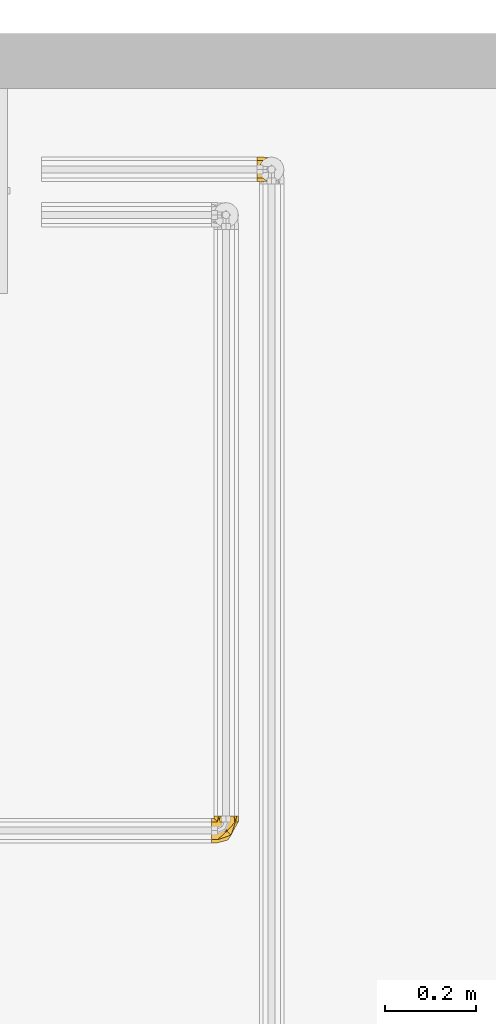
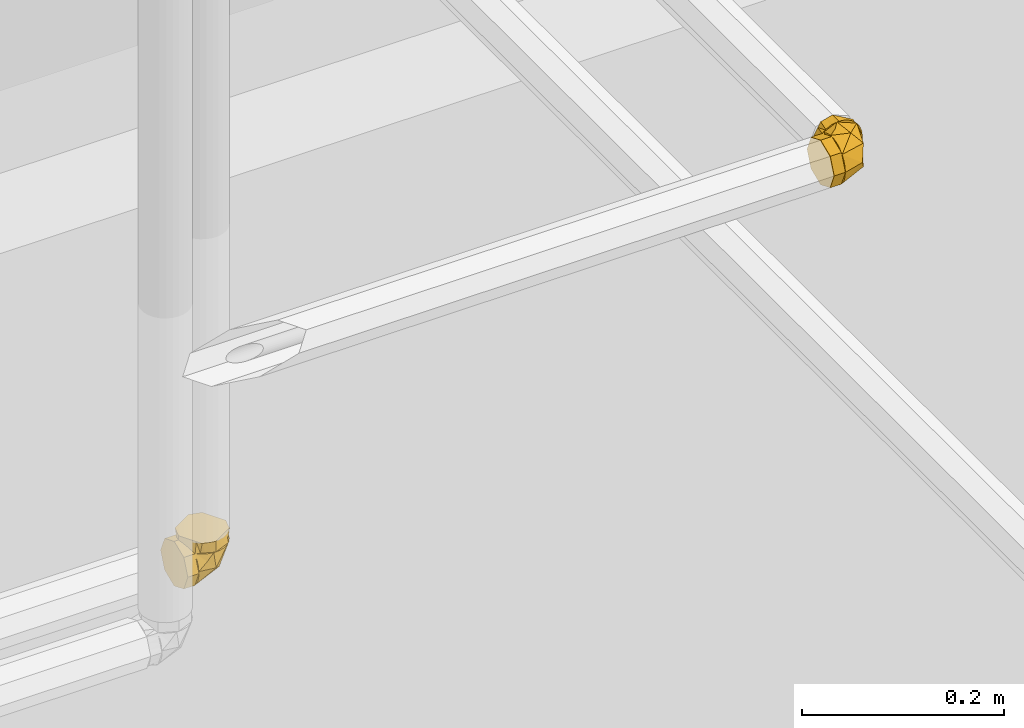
# One storey, part 314 of 652: 2 coverings.
"""IFC2X3 building model written with IfcOpenShell, lengths in millimetres."""

from ifc_helpers import new_model, entity, si_unit, converted_unit, direction, frame, origin, place, context, subcontext, project, spatial, face_set, surface_model, material, type_object, element, save


model = new_model("IFC2X3")

# Units and contexts
model_context = context("Model", 3, precision=0.01, world=frame((0.0, 0.0, 308426.39999999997)), true_north=direction((6.123233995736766e-17, 1.0)))
plan_context = context("Plan", 3, precision=0.01, world=frame((0.0, 0.0, 308426.39999999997)), true_north=direction((6.123233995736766e-17, 1.0)))
body_context = subcontext(model_context, "Body", "Model", "MODEL_VIEW")
ifc_project = project(units=[si_unit("LENGTHUNIT", "METRE", prefix="MILLI"), si_unit("AREAUNIT", "SQUARE_METRE"), si_unit("VOLUMEUNIT", "CUBIC_METRE"), converted_unit("PLANEANGLEUNIT", "DEGREE", entity("IfcPlaneAngleMeasure", 0.017453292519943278), si_unit("PLANEANGLEUNIT", "RADIAN"), dimensions=[0, 0, 0, 0, 0, 0, 0])], contexts=[model_context, plan_context])

# Site, building, storey
site_placement = place(None, origin())
site = spatial("IfcSite", under=ifc_project, at=site_placement, Name="Default", CompositionType="ELEMENT")
building_placement = place(site_placement, origin())
building = spatial("IfcBuilding", under=site, at=building_placement, CompositionType="ELEMENT")
storey_placement = place(building_placement, frame((0.0, 0.0, 1730.6999999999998)))
storey = spatial("IfcBuildingStorey", under=building, at=storey_placement, Name="EG_Produktion_FFB", CompositionType="ELEMENT", Elevation=1730.6999999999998)

# Coverings
ifc_material = material(Name="Dämmung - Armaflex-Schlauch")
covering_type = type_object("IfcCoveringType", Name="Rohrdämmung außen:Armaflex-Schlauch", PredefinedType="INSULATION")
covering_1_placement = place(storey_placement, frame((28968.016249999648, 48941.467227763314, 4071.467227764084)))
element("IfcCovering", 1, at=covering_1_placement, inside=storey, type_object=covering_type, material=ifc_material, Name="Rohrdämmung außen:Armaflex-Schlauch", ObjectType="Rohrdämmung außen:Armaflex-Schlauch", PredefinedType="INSULATION", context=body_context, shape_type="SurfaceModel", body=[
    surface_model("IfcFaceBasedSurfaceModel", [(12.766250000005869, 47.750272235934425, 9.656421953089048), (12.766250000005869, 42.79223424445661, 5.678961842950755), (12.766250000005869, 37.040242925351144, 2.973980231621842), (12.766250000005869, 30.81456370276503, 1.6920879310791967), (12.766250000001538, 24.461836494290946, 1.904659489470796), (12.766250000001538, 18.3357751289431, 3.599859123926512), (12.766250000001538, 12.777472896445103, 6.683299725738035), (12.766250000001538, 8.096410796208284, 10.98329824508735), (12.766250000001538, 4.553225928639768, 16.260434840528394), (12.766250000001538, 2.345199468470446, 22.220883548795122), (12.766250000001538, 1.5952722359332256, 28.532772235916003), (12.766250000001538, 2.345199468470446, 34.844660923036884), (12.766250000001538, 4.553225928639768, 40.805109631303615), (12.766250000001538, 8.096410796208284, 46.08224622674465), (12.766250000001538, 12.777472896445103, 50.38224474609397), (12.766250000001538, 18.3357751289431, 53.46568534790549), (12.766250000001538, 24.461836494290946, 55.16088498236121), (12.766250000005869, 30.81456370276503, 55.373456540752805), (12.766250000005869, 37.040242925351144, 54.09156424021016), (12.766250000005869, 42.79223424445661, 51.38658262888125), (12.766250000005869, 47.750272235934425, 47.40912251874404), (17.72428799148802, 47.750272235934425, 5.678961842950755), (23.476279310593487, 47.750272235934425, 2.973980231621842), (29.701958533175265, 47.750272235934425, 1.6920879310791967), (36.05468574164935, 47.750272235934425, 1.904659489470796), (42.180747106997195, 47.750272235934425, 3.599859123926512), (47.739049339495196, 47.750272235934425, 6.683299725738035), (52.420111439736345, 47.75027223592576, 10.98329824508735), (55.96329630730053, 47.75027223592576, 16.260434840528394), (58.17132276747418, 47.75027223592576, 22.220883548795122), (58.92125000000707, 47.75027223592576, 28.532772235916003), (58.17132276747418, 47.75027223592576, 34.844660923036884), (55.96329630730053, 47.75027223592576, 40.805109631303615), (52.420111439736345, 47.75027223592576, 46.08224622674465), (47.739049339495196, 47.750272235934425, 50.38224474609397), (42.180747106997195, 47.750272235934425, 53.46568534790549), (36.05468574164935, 47.750272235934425, 55.16088498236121), (29.701958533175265, 47.750272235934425, 55.373456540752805), (23.476279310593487, 47.750272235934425, 54.09156424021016), (17.72428799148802, 47.750272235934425, 51.38658262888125), (22.7095373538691, 39.06863649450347, 2.276149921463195), (35.8436193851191, 7.777523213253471, 28.53268678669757), (12.765958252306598, 19.45588014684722, 6.337529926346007), (33.5646887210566, 26.953096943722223, 3.5999063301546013), (43.18503173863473, 18.674532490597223, 14.285300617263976), (48.37773803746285, 29.487825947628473, 28.53268678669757), (41.0619055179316, 47.751827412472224, 6.337529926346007), (43.18503173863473, 18.674532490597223, 42.780072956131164), (33.5646887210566, 26.953096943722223, 53.46546724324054), (22.7095373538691, 39.06863649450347, 54.78922365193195), (41.0619055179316, 47.751827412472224, 50.727843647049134), (12.765958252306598, 19.45588014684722, 50.727843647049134), (0.0, 1.5952722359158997, 28.532772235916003), (0.0, 3.567725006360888, 33.29469446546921), (0.0, 5.540177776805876, 38.05661669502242), (0.0, 7.512630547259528, 42.818538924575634), (0.0, 9.485083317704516, 47.58046115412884), (0.0, 14.247005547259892, 49.552913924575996), (0.0, 19.008927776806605, 51.52536669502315), (0.0, 23.77085000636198, 53.49781946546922), (0.0, 28.532772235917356, 55.470272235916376), (0.0, 33.29469446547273, 53.49781946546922), (0.0, 38.056616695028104, 51.52536669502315), (0.0, 42.81853892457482, 49.552913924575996), (0.0, 47.5804611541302, 47.58046115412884), (0.0, 49.552913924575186, 42.818538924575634), (0.0, 51.525366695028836, 38.05661669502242), (0.0, 53.497819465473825, 33.29469446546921), (0.0, 55.47027223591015, 28.532772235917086), (0.0, 53.497819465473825, 23.770850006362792), (0.0, 51.525366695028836, 19.008927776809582), (0.0, 49.55291392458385, 14.247005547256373), (0.0, 47.5804611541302, 9.485083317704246), (0.0, 42.81853892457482, 7.512630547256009), (0.0, 38.056616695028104, 5.5401777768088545), (0.0, 33.29469446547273, 3.567725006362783), (0.0, 28.532772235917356, 1.595272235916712), (0.0, 23.77085000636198, 3.567725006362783), (0.0, 19.008927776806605, 5.5401777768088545), (0.0, 14.247005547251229, 7.512630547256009), (0.0, 9.485083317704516, 9.485083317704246), (0.0, 7.512630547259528, 14.247005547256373), (0.0, 5.540177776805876, 19.008927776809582), (0.0, 3.567725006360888, 23.770850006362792), (12.766250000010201, 1.5952722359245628, 28.532772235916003), (12.766250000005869, 3.567725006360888, 23.770850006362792), (12.766250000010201, 5.540177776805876, 19.008927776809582), (12.766250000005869, 7.512630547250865, 14.24700554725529), (12.766250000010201, 9.48508331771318, 9.485083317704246), (12.766250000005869, 15.253472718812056, 7.095738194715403), (12.766250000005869, 21.02186211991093, 4.706393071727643), (12.766250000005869, 28.532772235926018, 1.595272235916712), (12.766250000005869, 33.29469446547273, 3.567725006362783), (12.766250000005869, 38.056616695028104, 5.540177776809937), (12.766249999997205, 42.81853892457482, 7.512630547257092), (12.766250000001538, 47.58046115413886, 9.485083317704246), (12.766250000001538, 49.96980627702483, 15.25347271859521), (12.766250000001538, 52.35915139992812, 21.021862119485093), (12.766250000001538, 55.47027223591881, 28.532772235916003), (12.766250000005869, 53.497819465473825, 33.29469446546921), (12.766250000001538, 51.525366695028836, 38.05661669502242), (12.766250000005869, 49.55291392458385, 42.81853892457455), (12.766250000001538, 47.58046115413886, 47.58046115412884), (12.766250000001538, 41.8120717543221, 49.96980627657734), (12.766250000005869, 36.043682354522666, 52.35915139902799), (12.766250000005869, 28.532772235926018, 55.470272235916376), (12.766250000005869, 23.77085000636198, 53.49781946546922), (12.766250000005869, 19.008927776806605, 51.52536669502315), (12.766250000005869, 14.247005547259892, 49.552913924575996), (12.766250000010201, 9.48508331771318, 47.58046115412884), (12.766250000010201, 7.095738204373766, 41.81207177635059), (12.766250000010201, 4.706393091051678, 36.043682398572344), (58.92125000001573, 60.51652223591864, 28.532772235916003), (55.554062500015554, 60.51652223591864, 22.700632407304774), (52.18687500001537, 60.51652223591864, 16.868492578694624), (48.819687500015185, 60.51652223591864, 11.036352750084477), (45.45250000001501, 60.51652223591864, 5.204212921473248), (38.718125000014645, 60.51652223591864, 3.3997425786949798), (31.98375000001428, 60.51652223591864, 1.595272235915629), (26.151610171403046, 60.516522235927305, 4.962459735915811), (20.319470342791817, 60.51652223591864, 8.329647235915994), (14.487330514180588, 60.51652223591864, 11.696834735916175), (8.655190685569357, 60.51652223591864, 15.064022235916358), (6.85072034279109, 60.51652223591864, 21.798397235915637), (5.046250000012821, 60.51652223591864, 28.532772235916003), (8.413437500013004, 60.516522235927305, 34.36491206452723), (11.780625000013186, 60.51652223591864, 40.197051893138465), (15.147812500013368, 60.51652223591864, 46.02919172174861), (18.51500000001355, 60.51652223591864, 51.86133155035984), (25.249375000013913, 60.51652223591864, 53.66580189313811), (31.98375000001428, 60.51652223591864, 55.470272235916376), (37.81588982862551, 60.516522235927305, 52.10308473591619), (43.64802965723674, 60.51652223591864, 48.73589723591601), (49.480169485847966, 60.51652223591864, 45.36870973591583), (55.3123093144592, 60.51652223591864, 42.00152223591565), (57.116779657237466, 60.51652223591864, 35.26714723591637), (27.221827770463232, 47.75027223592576, 53.49781946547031), (22.459905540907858, 47.75027223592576, 51.52536669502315), (17.697983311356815, 47.75027223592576, 49.552913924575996), (12.936061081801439, 47.75027223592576, 47.58046115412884), (10.96360831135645, 47.75027223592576, 42.818538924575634), (8.99115554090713, 47.75027223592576, 38.05661669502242), (7.01870277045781, 47.75027223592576, 33.29469446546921), (5.046250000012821, 47.75027223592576, 28.532772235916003), (7.018702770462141, 47.75027223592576, 23.770850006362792), (8.99115554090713, 47.75027223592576, 19.008927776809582), (10.96360831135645, 47.75027223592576, 14.247005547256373), (12.936061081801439, 47.75027223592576, 9.485083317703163), (17.697983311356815, 47.75027223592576, 7.512630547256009), (22.459905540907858, 47.75027223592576, 5.5401777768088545), (27.221827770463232, 47.75027223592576, 3.567725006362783), (31.98375000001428, 47.75027223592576, 1.595272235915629), (36.74567222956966, 47.75027223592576, 3.567725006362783), (41.507594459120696, 47.75027223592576, 5.5401777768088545), (46.26951668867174, 47.75027223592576, 7.512630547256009), (51.03143891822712, 47.75027223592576, 9.485083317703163), (53.003891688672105, 47.75027223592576, 14.247005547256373), (54.97634445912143, 47.75027223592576, 19.008927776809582), (56.948797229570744, 47.75027223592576, 23.770850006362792), (58.921250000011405, 47.75027223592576, 28.532772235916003), (56.948797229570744, 47.75027223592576, 33.29469446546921), (54.97634445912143, 47.75027223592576, 38.05661669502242), (53.003891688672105, 47.75027223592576, 42.818538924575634), (51.03143891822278, 47.75027223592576, 47.58046115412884), (46.26951668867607, 47.75027223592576, 49.552913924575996), (41.507594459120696, 47.75027223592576, 51.52536669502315), (36.74567222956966, 47.75027223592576, 53.49781946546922), (31.98375000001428, 47.75027223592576, 55.470272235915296)], [face_set([[[0, 1, 2, 3, 4, 5, 6, 7, 8, 9, 10, 11, 12, 13, 14, 15, 16, 17, 18, 19]], [[20, 21, 22, 23, 24, 25, 26, 27, 28, 29, 30, 31, 32, 33, 34, 35, 36, 37, 38, 39]], [[0, 40, 3]], [[10, 7, 41]], [[42, 3, 43, 7]], [[40, 43, 3]], [[23, 40, 0]], [[7, 43, 44]], [[45, 41, 44]], [[7, 44, 41]], [[27, 30, 45]], [[45, 44, 27]], [[43, 27, 44]], [[43, 23, 46]], [[23, 43, 40]], [[46, 27, 43]], [[13, 10, 41]], [[33, 47, 45]], [[45, 30, 33]], [[48, 47, 33]], [[49, 48, 37]], [[48, 50, 37]], [[45, 47, 41]], [[20, 49, 37]], [[47, 48, 13]], [[17, 49, 20]], [[41, 47, 13]], [[48, 17, 51, 13]], [[48, 33, 50]], [[17, 48, 49]]]), face_set([[[52, 53, 54, 55, 56, 57, 58, 59, 60, 61, 62, 63, 64, 65, 66, 67, 68, 69, 70, 71, 72, 73, 74, 75, 76, 77, 78, 79, 80, 81, 82, 83]], [[84, 85, 86, 87, 88, 89, 90, 91, 92, 93, 94, 95, 96, 97, 98, 99, 100, 101, 102, 103, 104, 105, 106, 107, 108, 109, 110, 111]], [[111, 110, 109, 56, 55, 54, 53, 52, 84]], [[56, 109, 108, 107, 106, 105, 60, 59, 58, 57]], [[104, 103, 102, 64, 63, 62, 61, 60, 105]], [[64, 102, 101, 100, 99, 98, 68, 67, 66, 65]], [[97, 96, 95, 72, 71, 70, 69, 68, 98]], [[72, 95, 94, 93, 92, 91, 76, 75, 74, 73]], [[90, 89, 88, 80, 79, 78, 77, 76, 91]], [[80, 88, 87, 86, 85, 84, 52, 83, 82, 81]]]), face_set([[[112, 113, 114, 115, 116, 117, 118, 119, 120, 121, 122, 123, 124, 125, 126, 127, 128, 129, 130, 131, 132, 133, 134, 135]], [[136, 137, 138, 139, 140, 141, 142, 143, 144, 145, 146, 147, 148, 149, 150, 151, 152, 153, 154, 155, 156, 157, 158, 159, 160, 161, 162, 163, 164, 165, 166, 167]], [[146, 121, 147]], [[118, 150, 119]], [[150, 149, 119]], [[123, 145, 144]], [[144, 143, 124]], [[121, 146, 122]], [[120, 149, 148]], [[118, 151, 150]], [[149, 120, 119]], [[124, 123, 144]], [[148, 147, 121]], [[146, 145, 122]], [[123, 122, 145]], [[120, 148, 121]], [[154, 115, 155]], [[112, 158, 113]], [[158, 157, 113]], [[117, 153, 152]], [[152, 151, 118]], [[115, 154, 116]], [[114, 157, 156]], [[112, 159, 158]], [[157, 114, 113]], [[118, 117, 152]], [[156, 155, 115]], [[154, 153, 116]], [[117, 116, 153]], [[114, 156, 115]], [[162, 133, 163]], [[130, 166, 131]], [[166, 165, 131]], [[135, 161, 160]], [[160, 159, 112]], [[133, 162, 134]], [[132, 165, 164]], [[130, 167, 166]], [[165, 132, 131]], [[112, 135, 160]], [[164, 163, 133]], [[162, 161, 134]], [[135, 134, 161]], [[132, 164, 133]], [[138, 127, 139]], [[124, 142, 125]], [[142, 141, 125]], [[129, 137, 136]], [[136, 167, 130]], [[127, 138, 128]], [[126, 141, 140]], [[124, 143, 142]], [[141, 126, 125]], [[130, 129, 136]], [[140, 139, 127]], [[138, 137, 128]], [[129, 128, 137]], [[126, 140, 127]]])]),
])
covering_2_placement = place(storey_placement, frame((29068.016249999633, 50393.50378550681, 2671.467227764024)))
element("IfcCovering", 2, at=covering_2_placement, inside=storey, type_object=covering_type, material=ifc_material, Name="Rohrdämmung außen:Armaflex-Schlauch", ObjectType="Rohrdämmung außen:Armaflex-Schlauch", PredefinedType="INSULATION", context=body_context, shape_type="SurfaceModel", body=[
    surface_model("IfcFaceBasedSurfaceModel", [(12.766250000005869, 47.409122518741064, 47.75027223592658), (12.766250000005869, 51.38658262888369, 42.79223424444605), (12.766250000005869, 54.0915642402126, 37.040242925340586), (12.766250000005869, 55.37345654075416, 30.81456370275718), (12.766250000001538, 55.16088498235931, 24.46183649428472), (12.766250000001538, 53.465685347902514, 18.33577512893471), (12.766250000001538, 50.38224474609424, 12.777472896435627), (12.766250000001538, 46.08224622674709, 8.096410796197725), (12.766250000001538, 40.8051096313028, 4.553225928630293), (12.766250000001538, 34.844660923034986, 2.3451994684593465), (12.766250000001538, 28.532772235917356, 1.5952722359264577), (12.766250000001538, 22.220883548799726, 2.3451994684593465), (12.766250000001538, 16.26043484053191, 4.553225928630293), (12.766250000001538, 10.983298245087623, 8.096410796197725), (12.766250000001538, 6.683299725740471, 12.777472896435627), (12.766250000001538, 3.599859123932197, 18.33577512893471), (12.766250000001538, 1.904659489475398, 24.46183649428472), (12.766250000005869, 1.6920879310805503, 30.81456370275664), (12.766250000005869, 2.973980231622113, 37.04024292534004), (12.766250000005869, 5.678961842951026, 42.79223424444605), (12.766250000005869, 9.65642195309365, 47.75027223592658), (17.72428799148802, 5.678961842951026, 47.75027223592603), (23.476279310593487, 2.973980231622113, 47.75027223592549), (29.701958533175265, 1.6920879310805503, 47.75027223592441), (36.05468574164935, 1.904659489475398, 47.75027223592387), (42.180747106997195, 3.599859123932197, 47.750272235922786), (47.739049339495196, 6.683299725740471, 47.750272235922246), (52.420111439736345, 10.983298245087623, 47.750272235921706), (55.96329630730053, 16.26043484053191, 47.750272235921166), (58.17132276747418, 22.220883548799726, 47.750272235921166), (58.92125000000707, 28.532772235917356, 47.750272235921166), (58.17132276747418, 34.844660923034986, 47.750272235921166), (55.96329630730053, 40.8051096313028, 47.750272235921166), (52.420111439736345, 46.08224622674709, 47.750272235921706), (47.739049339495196, 50.38224474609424, 47.750272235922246), (42.180747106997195, 53.465685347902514, 47.750272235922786), (36.05468574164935, 55.16088498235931, 47.75027223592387), (29.701958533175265, 55.37345654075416, 47.75027223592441), (23.476279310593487, 54.0915642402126, 47.75027223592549), (17.72428799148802, 51.38658262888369, 47.75027223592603), (22.70808471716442, 54.78900013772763, 39.069823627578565), (35.84449218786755, 28.534788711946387, 7.779001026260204), (12.766831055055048, 50.728782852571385, 19.45561388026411), (33.56556152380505, 53.46349964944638, 26.951086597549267), (43.18357910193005, 42.78043080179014, 18.67484758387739), (48.37628540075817, 28.534788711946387, 29.486687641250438), (41.06045288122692, 50.728782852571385, 47.75039842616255), (43.18357910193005, 14.284495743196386, 18.67484758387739), (33.56556152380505, 3.601426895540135, 26.951086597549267), (22.70808471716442, 2.275926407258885, 39.069823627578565), (41.06045288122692, 6.336143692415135, 47.75039842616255), (12.766831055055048, 6.336143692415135, 19.45561388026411), (0.0, 28.532772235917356, 1.5952722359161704), (0.0, 23.77085000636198, 3.567725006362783), (0.0, 19.008927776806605, 5.540177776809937), (0.0, 14.247005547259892, 7.51263054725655), (0.0, 9.485083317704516, 9.485083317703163), (0.0, 7.512630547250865, 14.247005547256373), (0.0, 5.540177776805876, 19.008927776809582), (0.0, 3.567725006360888, 23.770850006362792), (0.0, 1.5952722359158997, 28.532772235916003), (0.0, 3.567725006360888, 33.29469446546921), (0.0, 5.540177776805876, 38.05661669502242), (0.0, 7.512630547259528, 42.818538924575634), (0.0, 9.485083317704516, 47.5804611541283), (0.0, 14.247005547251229, 49.552913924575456), (0.0, 19.008927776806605, 51.525366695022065), (0.0, 23.77085000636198, 53.49781946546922), (0.0, 28.532772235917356, 55.470272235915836), (0.0, 33.29469446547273, 53.49781946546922), (0.0, 38.056616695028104, 51.525366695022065), (0.0, 42.818538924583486, 49.552913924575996), (0.0, 47.5804611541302, 47.58046115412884), (0.0, 49.55291392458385, 42.818538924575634), (0.0, 51.525366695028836, 38.05661669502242), (0.0, 53.497819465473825, 33.29469446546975), (0.0, 55.47027223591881, 28.532772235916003), (0.0, 53.497819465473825, 23.770850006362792), (0.0, 51.525366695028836, 19.008927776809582), (0.0, 49.552913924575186, 14.247005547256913), (0.0, 47.5804611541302, 9.485083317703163), (0.0, 42.818538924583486, 7.512630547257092), (0.0, 38.056616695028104, 5.540177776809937), (0.0, 33.29469446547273, 3.567725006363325), (12.766250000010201, 28.532772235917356, 1.5952722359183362), (12.766250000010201, 33.29469446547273, 3.567725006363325), (12.766250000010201, 38.056616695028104, 5.540177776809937), (12.766250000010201, 42.81853892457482, 7.512630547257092), (12.766250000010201, 47.5804611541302, 9.485083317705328), (12.766250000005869, 49.96980627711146, 15.253472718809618), (12.766250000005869, 52.35915140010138, 21.021862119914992), (12.766250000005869, 55.47027223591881, 28.532772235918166), (12.766250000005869, 53.497819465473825, 33.29469446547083), (12.766250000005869, 51.525366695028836, 38.05661669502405), (12.766250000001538, 49.552913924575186, 42.818538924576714), (12.766250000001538, 47.5804611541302, 47.58046115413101), (12.766250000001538, 41.81207175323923, 49.96980627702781), (12.766250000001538, 36.04368235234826, 52.359151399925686), (12.766250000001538, 28.532772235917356, 55.470272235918), (12.766250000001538, 23.77085000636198, 53.49781946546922), (12.766250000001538, 19.008927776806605, 51.52536669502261), (12.766250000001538, 14.247005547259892, 49.552913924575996), (12.766250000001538, 9.485083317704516, 47.58046115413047), (12.766250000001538, 7.095738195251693, 41.81207175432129), (12.766250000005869, 4.706393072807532, 36.04368235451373), (12.766250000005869, 1.5952722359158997, 28.532772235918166), (12.766250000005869, 3.567725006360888, 23.77085000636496), (12.766250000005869, 5.540177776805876, 19.008927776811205), (12.766250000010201, 7.512630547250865, 14.247005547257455), (12.766250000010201, 9.485083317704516, 9.485083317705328), (12.766250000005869, 15.253472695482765, 7.095738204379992), (12.766250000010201, 21.021862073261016, 4.706393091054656), (58.92125000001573, 28.532772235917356, 60.516522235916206), (55.554062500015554, 34.36491206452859, 60.5165222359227), (52.18687500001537, 40.197051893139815, 60.51652223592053), (48.819687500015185, 46.02919172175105, 60.516522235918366), (45.45250000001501, 51.86133155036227, 60.516522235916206), (38.718125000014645, 53.66580189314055, 60.516522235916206), (31.98375000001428, 55.47027223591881, 60.516522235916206), (26.151610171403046, 52.10308473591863, 60.51652223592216), (20.319470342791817, 48.73589723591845, 60.51652223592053), (14.487330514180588, 45.368709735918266, 60.516522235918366), (8.655190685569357, 42.00152223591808, 60.516522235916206), (6.85072034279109, 35.26714723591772, 60.516522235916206), (5.046250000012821, 28.532772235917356, 60.516522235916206), (8.413437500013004, 22.700632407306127, 60.5165222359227), (11.780625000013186, 16.868492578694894, 60.51652223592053), (15.147812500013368, 11.036352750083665, 60.51652223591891), (18.51500000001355, 5.204212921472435, 60.516522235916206), (25.249375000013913, 3.3997425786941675, 60.516522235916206), (31.98375000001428, 1.5952722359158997, 60.516522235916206), (37.81588982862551, 4.962459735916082, 60.5165222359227), (43.64802965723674, 8.329647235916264, 60.51652223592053), (49.480169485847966, 11.696834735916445, 60.51652223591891), (55.3123093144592, 15.064022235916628, 60.516522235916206), (57.116779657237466, 21.79839723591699, 60.516522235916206), (58.921250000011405, 28.532772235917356, 47.75027223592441), (56.948797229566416, 23.77085000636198, 47.75027223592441), (54.97634445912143, 19.008927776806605, 47.75027223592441), (53.003891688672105, 14.247005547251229, 47.75027223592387), (51.03143891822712, 9.485083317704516, 47.75027223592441), (46.26951668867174, 7.512630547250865, 47.75027223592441), (41.507594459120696, 5.540177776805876, 47.75027223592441), (36.74567222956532, 3.567725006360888, 47.75027223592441), (31.98375000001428, 1.5952722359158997, 47.75027223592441), (27.2218277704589, 3.567725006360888, 47.75027223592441), (22.459905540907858, 5.540177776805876, 47.75027223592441), (17.697983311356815, 7.512630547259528, 47.75027223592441), (12.936061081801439, 9.485083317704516, 47.75027223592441), (10.963608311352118, 14.247005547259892, 47.75027223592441), (8.99115554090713, 19.008927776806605, 47.75027223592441), (7.01870277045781, 23.77085000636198, 47.75027223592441), (5.046250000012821, 28.532772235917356, 47.75027223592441), (7.01870277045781, 33.29469446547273, 47.75027223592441), (8.99115554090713, 38.056616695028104, 47.75027223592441), (10.96360831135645, 42.818538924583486, 47.75027223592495), (12.936061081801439, 47.5804611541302, 47.75027223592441), (17.697983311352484, 49.552913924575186, 47.75027223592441), (22.459905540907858, 51.525366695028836, 47.75027223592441), (27.221827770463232, 53.497819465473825, 47.75027223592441), (31.98375000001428, 55.47027223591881, 47.75027223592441), (36.74567222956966, 53.497819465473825, 47.75027223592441), (41.507594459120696, 51.525366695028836, 47.75027223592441), (46.26951668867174, 49.552913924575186, 47.75027223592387), (51.03143891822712, 47.5804611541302, 47.75027223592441), (53.00389168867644, 42.81853892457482, 47.75027223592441), (54.97634445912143, 38.056616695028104, 47.75027223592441), (56.948797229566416, 33.29469446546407, 47.75027223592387)], [face_set([[[0, 1, 2, 3, 4, 5, 6, 7, 8, 9, 10, 11, 12, 13, 14, 15, 16, 17, 18, 19]], [[20, 21, 22, 23, 24, 25, 26, 27, 28, 29, 30, 31, 32, 33, 34, 35, 36, 37, 38, 39]], [[0, 40, 3]], [[10, 7, 41]], [[42, 3, 43]], [[40, 43, 3]], [[37, 40, 0]], [[7, 43, 44]], [[45, 41, 44]], [[7, 44, 41]], [[33, 30, 45]], [[45, 44, 33]], [[43, 33, 44]], [[43, 37, 46]], [[43, 7, 42]], [[37, 43, 40]], [[46, 33, 43]], [[13, 10, 41]], [[27, 47, 45]], [[45, 30, 27]], [[48, 47, 27]], [[49, 48, 23]], [[48, 50, 23]], [[45, 47, 41]], [[20, 49, 23]], [[47, 48, 13]], [[17, 49, 20]], [[41, 47, 13]], [[48, 17, 51]], [[48, 27, 50]], [[17, 48, 49]], [[51, 13, 48]]]), face_set([[[52, 53, 54, 55, 56, 57, 58, 59, 60, 61, 62, 63, 64, 65, 66, 67, 68, 69, 70, 71, 72, 73, 74, 75, 76, 77, 78, 79, 80, 81, 82, 83]], [[84, 85, 86, 87, 88, 89, 90, 91, 92, 93, 94, 95, 96, 97, 98, 99, 100, 101, 102, 103, 104, 105, 106, 107, 108, 109, 110, 111]], [[111, 110, 109, 56, 55, 54, 53, 52, 84]], [[56, 109, 108, 107, 106, 105, 60, 59, 58, 57]], [[104, 103, 102, 64, 63, 62, 61, 60, 105]], [[64, 102, 101, 100, 99, 98, 68, 67, 66, 65]], [[97, 96, 95, 72, 71, 70, 69, 68, 98]], [[72, 95, 94, 93, 92, 91, 76, 75, 74, 73]], [[90, 89, 88, 80, 79, 78, 77, 76, 91]], [[80, 88, 87, 86, 85, 84, 52, 83, 82, 81]]]), face_set([[[112, 113, 114, 115, 116, 117, 118, 119, 120, 121, 122, 123, 124, 125, 126, 127, 128, 129, 130, 131, 132, 133, 134, 135]], [[136, 137, 138, 139, 140, 141, 142, 143, 144, 145, 146, 147, 148, 149, 150, 151, 152, 153, 154, 155, 156, 157, 158, 159, 160, 161, 162, 163, 164, 165, 166, 167]], [[155, 121, 156]], [[118, 159, 119]], [[159, 158, 119]], [[123, 154, 153]], [[153, 152, 124]], [[121, 155, 122]], [[120, 158, 157]], [[118, 160, 159]], [[158, 120, 119]], [[124, 123, 153]], [[157, 156, 121]], [[155, 154, 122]], [[123, 122, 154]], [[120, 157, 121]], [[163, 115, 164]], [[112, 167, 113]], [[167, 166, 113]], [[117, 162, 161]], [[161, 160, 118]], [[115, 163, 116]], [[114, 166, 165]], [[112, 136, 167]], [[166, 114, 113]], [[118, 117, 161]], [[165, 164, 115]], [[163, 162, 116]], [[117, 116, 162]], [[114, 165, 115]], [[139, 133, 140]], [[130, 143, 131]], [[143, 142, 131]], [[135, 138, 137]], [[137, 136, 112]], [[133, 139, 134]], [[132, 142, 141]], [[130, 144, 143]], [[142, 132, 131]], [[112, 135, 137]], [[141, 140, 133]], [[139, 138, 134]], [[135, 134, 138]], [[132, 141, 133]], [[147, 127, 148]], [[124, 151, 125]], [[151, 150, 125]], [[129, 146, 145]], [[145, 144, 130]], [[127, 147, 128]], [[126, 150, 149]], [[124, 152, 151]], [[150, 126, 125]], [[130, 129, 145]], [[149, 148, 127]], [[147, 146, 128]], [[129, 128, 146]], [[126, 149, 127]]])]),
])

save(model, "model.ifc")
